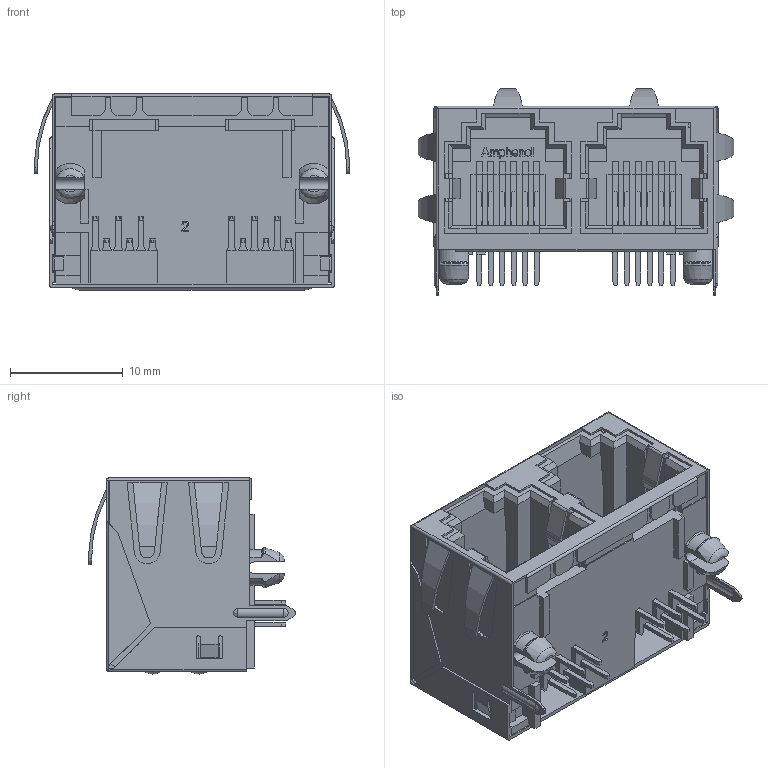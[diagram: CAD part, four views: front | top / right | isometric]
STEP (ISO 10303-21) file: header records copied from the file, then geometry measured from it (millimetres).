
FILE_DESCRIPTION (( 'STEP AP214' ), '1' );
FILE_NAME ('RJE0166202.STEP', '2023-08-08T14:56:03', ( '' ), ( '' ), 'SwSTEP 2.0', 'SolidWorks 2021', '' );
FILE_SCHEMA (( 'AUTOMOTIVE_DESIGN' ));
Length unit declared in the file: millimetre
Products named in the file (2): RJE0166202--3DModel-STEP-533217; RJE0166202
Assembly tree (1 placements, depth 2):
  RJE0166202
    RJE0166202--3DModel-STEP-533217
Bounding box: 27.94 x 18.31 x 17.37 mm (x, y, z)
Volume: 2506.7 mm3; surface area: 5909.8 mm2
Topology: 1 solids, 1 shells, 1446 faces, 4156 edges, 2713 vertices
Faces by surface type: plane 1161, cylinder 149, bspline 126, cone 10
Entity records: 60259 total; most frequent: CARTESIAN_POINT 14952, ORIENTED_EDGE 8276, DIRECTION 6831, EDGE_CURVE 4138, VECTOR 3509, LINE 3509, VERTEX_POINT 2713, AXIS2_PLACEMENT_3D 1661
